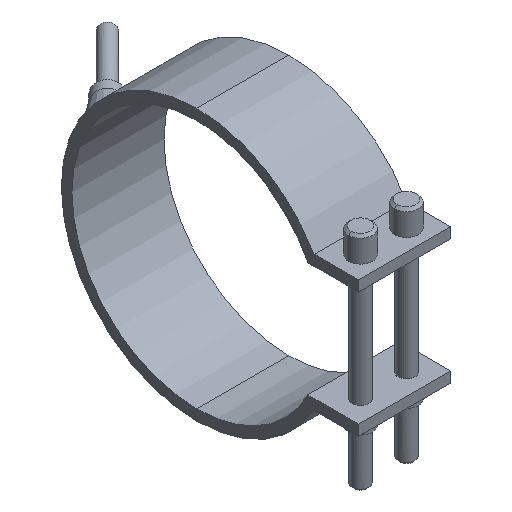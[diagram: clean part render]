
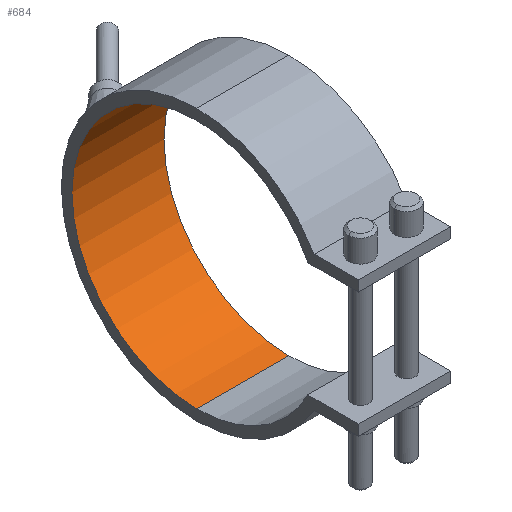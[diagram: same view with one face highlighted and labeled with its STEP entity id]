
A CAD part, isometric view. The second image highlights one B-rep face of the part: STEP entity #684.
In plain terms, the highlighted cylindrical face has radius 47.5 mm (diameter 95 mm), a partial arc.
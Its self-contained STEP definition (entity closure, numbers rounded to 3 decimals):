
#354=CARTESIAN_POINT('Vertex',(17.5,0.,47.5)) ;
#359=CARTESIAN_POINT('Axis2P3D Location',(17.5,0.,0.)) ;
#363=CARTESIAN_POINT('Vertex',(17.5,0.,-47.5)) ;
#470=CARTESIAN_POINT('Vertex',(-17.5,0.,-47.5)) ;
#473=CARTESIAN_POINT('Axis2P3D Location',(-17.5,0.,0.)) ;
#477=CARTESIAN_POINT('Vertex',(-17.5,0.,47.5)) ;
#656=CARTESIAN_POINT('Line Origine',(17.5,0.,47.5)) ;
#668=CARTESIAN_POINT('Axis2P3D Location',(17.5,0.,0.)) ;
#673=CARTESIAN_POINT('Line Origine',(17.5,0.,-47.5)) ;
#360=DIRECTION('Axis2P3D Direction',(1.,0.,0.)) ;
#474=DIRECTION('Axis2P3D Direction',(1.,0.,0.)) ;
#657=DIRECTION('Vector Direction',(1.,0.,0.)) ;
#669=DIRECTION('Axis2P3D Direction',(1.,0.,-0.)) ;
#670=DIRECTION('Axis2P3D XDirection',(0.,0.,-1.)) ;
#674=DIRECTION('Vector Direction',(1.,0.,0.)) ;
#361=AXIS2_PLACEMENT_3D('Circle Axis2P3D',#359,#360,$) ;
#475=AXIS2_PLACEMENT_3D('Circle Axis2P3D',#473,#474,$) ;
#671=AXIS2_PLACEMENT_3D('Cylinder Axis2P3D',#668,#669,#670) ;
#679=ORIENTED_EDGE('',*,*,#365,.T.) ;
#680=ORIENTED_EDGE('',*,*,#660,.T.) ;
#681=ORIENTED_EDGE('',*,*,#479,.F.) ;
#682=ORIENTED_EDGE('',*,*,#677,.T.) ;
#658=VECTOR('Line Direction',#657,1.) ;
#675=VECTOR('Line Direction',#674,1.) ;
#684=ADVANCED_FACE('29095035',(#683),#672,.F.) ;
#362=CIRCLE('generated circle',#361,47.5) ;
#476=CIRCLE('generated circle',#475,47.5) ;
#672=CYLINDRICAL_SURFACE('generated cylinder',#671,47.5) ;
#365=EDGE_CURVE('',#364,#355,#362,.T.) ;
#479=EDGE_CURVE('',#471,#478,#476,.T.) ;
#660=EDGE_CURVE('',#355,#478,#659,.F.) ;
#677=EDGE_CURVE('',#471,#364,#676,.T.) ;
#678=EDGE_LOOP('',(#679,#680,#681,#682)) ;
#683=FACE_OUTER_BOUND('',#678,.T.) ;
#659=LINE('Line',#656,#658) ;
#676=LINE('Line',#673,#675) ;
#355=VERTEX_POINT('',#354) ;
#364=VERTEX_POINT('',#363) ;
#471=VERTEX_POINT('',#470) ;
#478=VERTEX_POINT('',#477) ;
